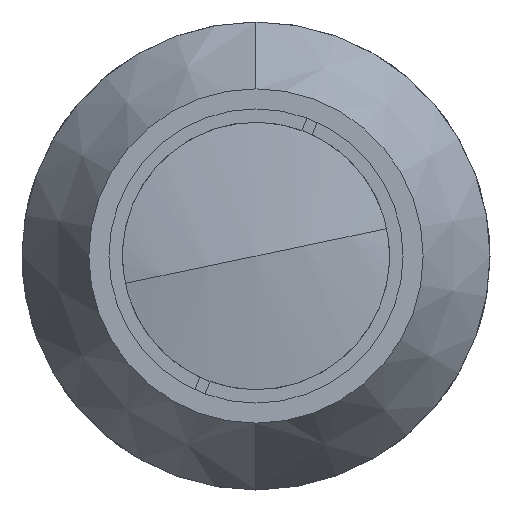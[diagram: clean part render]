
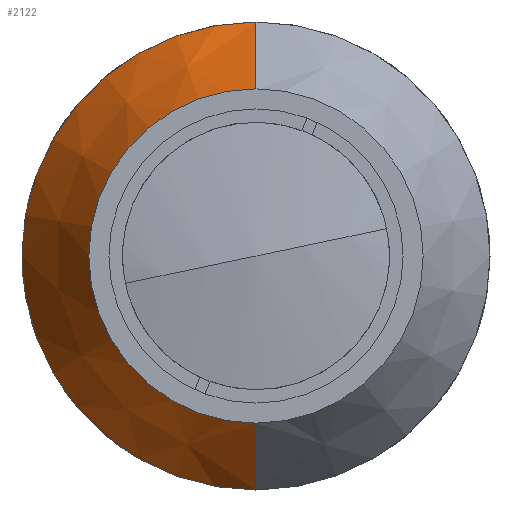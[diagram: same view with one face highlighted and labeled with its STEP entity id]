
A CAD part, left-side view. The second image highlights one B-rep face of the part: STEP entity #2122.
In plain terms, the highlighted conical face has half-angle 30 degrees and reference radius 21 mm.
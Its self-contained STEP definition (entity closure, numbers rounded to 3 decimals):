
#249 = EDGE_CURVE ( 'NONE', #14028, #11632, #11818, .T. ) ;
#560 = DIRECTION ( 'NONE',  ( 0., 0., -1. ) ) ;
#619 = CARTESIAN_POINT ( 'NONE',  ( 15., 0., 0. ) ) ;
#658 = DIRECTION ( 'NONE',  ( 1., 0., 0. ) ) ;
#1721 = CARTESIAN_POINT ( 'NONE',  ( 25.392, 0., 21. ) ) ;
#1793 = DIRECTION ( 'NONE',  ( 0., 0., 1. ) ) ;
#2004 = CARTESIAN_POINT ( 'NONE',  ( 15., 0., 15. ) ) ;
#2122 = ADVANCED_FACE ( 'NONE', ( #4497 ), #13135, .T. ) ;
#2358 = ORIENTED_EDGE ( 'NONE', *, *, #5819, .F. ) ;
#2415 = VERTEX_POINT ( 'NONE', #7806 ) ;
#2908 = LINE ( 'NONE', #3074, #11516 ) ;
#2982 = VERTEX_POINT ( 'NONE', #2004 ) ;
#3074 = CARTESIAN_POINT ( 'NONE',  ( 25.392, 0., -21. ) ) ;
#3472 = EDGE_CURVE ( 'NONE', #2982, #14028, #3779, .T. ) ;
#3662 = AXIS2_PLACEMENT_3D ( 'NONE', #619, #8856, #1793 ) ;
#3779 = LINE ( 'NONE', #13406, #15153 ) ;
#3857 = ORIENTED_EDGE ( 'NONE', *, *, #3472, .T. ) ;
#4497 = FACE_OUTER_BOUND ( 'NONE', #12630, .T. ) ;
#4624 = ORIENTED_EDGE ( 'NONE', *, *, #249, .T. ) ;
#5819 = EDGE_CURVE ( 'NONE', #2415, #11632, #2908, .T. ) ;
#6078 = DIRECTION ( 'NONE',  ( -1., 0., 0. ) ) ;
#6399 = DIRECTION ( 'NONE',  ( 0.866, 0., 0.5 ) ) ;
#7786 = AXIS2_PLACEMENT_3D ( 'NONE', #13083, #6078, #14268 ) ;
#7806 = CARTESIAN_POINT ( 'NONE',  ( 15., 0., -15. ) ) ;
#8788 = CARTESIAN_POINT ( 'NONE',  ( 25.392, 0., 0. ) ) ;
#8856 = DIRECTION ( 'NONE',  ( -1., 0., 0. ) ) ;
#10147 = DIRECTION ( 'NONE',  ( 0.866, 0., -0.5 ) ) ;
#10486 = AXIS2_PLACEMENT_3D ( 'NONE', #8788, #658, #560 ) ;
#11123 = ORIENTED_EDGE ( 'NONE', *, *, #11947, .F. ) ;
#11516 = VECTOR ( 'NONE', #10147, 1000. ) ;
#11551 = CIRCLE ( 'NONE', #3662, 15. ) ;
#11632 = VERTEX_POINT ( 'NONE', #13432 ) ;
#11818 = CIRCLE ( 'NONE', #7786, 21. ) ;
#11947 = EDGE_CURVE ( 'NONE', #2982, #2415, #11551, .T. ) ;
#12630 = EDGE_LOOP ( 'NONE', ( #11123, #3857, #4624, #2358 ) ) ;
#13083 = CARTESIAN_POINT ( 'NONE',  ( 25.392, 0., 0. ) ) ;
#13135 = CONICAL_SURFACE ( 'NONE', #10486, 21., 0.524 ) ;
#13406 = CARTESIAN_POINT ( 'NONE',  ( 25.392, 0., 21. ) ) ;
#13432 = CARTESIAN_POINT ( 'NONE',  ( 25.392, 0., -21. ) ) ;
#14028 = VERTEX_POINT ( 'NONE', #1721 ) ;
#14268 = DIRECTION ( 'NONE',  ( 0., 0., 1. ) ) ;
#15153 = VECTOR ( 'NONE', #6399, 1000. ) ;
